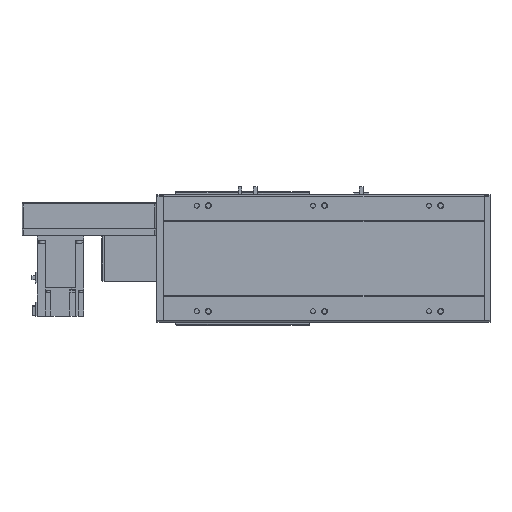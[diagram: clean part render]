
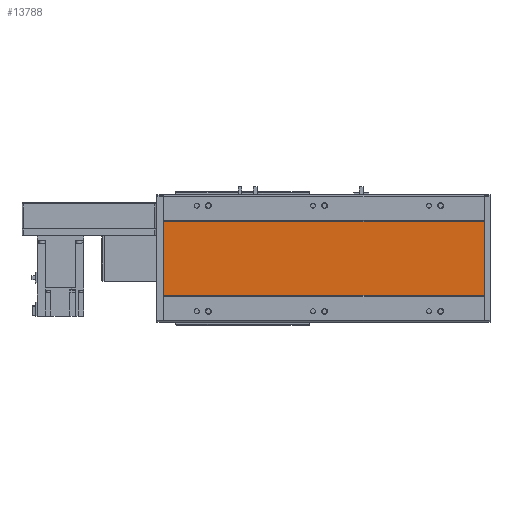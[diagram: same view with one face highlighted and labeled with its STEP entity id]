
A CAD part, front view. The second image highlights one B-rep face of the part: STEP entity #13788.
In plain terms, the highlighted planar face has unit normal (0, -1, 0).
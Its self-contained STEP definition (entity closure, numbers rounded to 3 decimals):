
#3067=ORIENTED_EDGE('',*,*,#6180,.T.);
#3068=ORIENTED_EDGE('',*,*,#6181,.F.);
#3069=ORIENTED_EDGE('',*,*,#6182,.F.);
#3070=ORIENTED_EDGE('',*,*,#6178,.T.);
#6178=EDGE_CURVE('',#7857,#7856,#9098,.T.);
#6180=EDGE_CURVE('',#7856,#7858,#9099,.T.);
#6181=EDGE_CURVE('',#7859,#7858,#9100,.T.);
#6182=EDGE_CURVE('',#7857,#7859,#9101,.T.);
#7856=VERTEX_POINT('',#22649);
#7857=VERTEX_POINT('',#22651);
#7858=VERTEX_POINT('',#22655);
#7859=VERTEX_POINT('',#22657);
#9098=LINE('',#22650,#10433);
#9099=LINE('',#22654,#10434);
#9100=LINE('',#22656,#10435);
#9101=LINE('',#22658,#10436);
#10433=VECTOR('',#18173,1000.);
#10434=VECTOR('',#18178,1000.);
#10435=VECTOR('',#18179,1000.);
#10436=VECTOR('',#18180,1000.);
#11374=EDGE_LOOP('',(#3067,#3068,#3069,#3070));
#12373=FACE_BOUND('',#11374,.T.);
#13147=PLANE('',#15034);
#13788=ADVANCED_FACE('',(#12373),#13147,.F.);
#15034=AXIS2_PLACEMENT_3D('',#22653,#18176,#18177);
#18173=DIRECTION('',(-1.,0.,0.));
#18176=DIRECTION('',(0.,1.,0.));
#18177=DIRECTION('',(0.,0.,1.));
#18178=DIRECTION('',(0.,0.,-1.));
#18179=DIRECTION('',(-1.,0.,0.));
#18180=DIRECTION('',(0.,0.,-1.));
#22649=CARTESIAN_POINT('',(12.,1.,64.294));
#22650=CARTESIAN_POINT('',(564.,1.,64.294));
#22651=CARTESIAN_POINT('',(564.,1.,64.294));
#22653=CARTESIAN_POINT('',(564.,1.,64.294));
#22654=CARTESIAN_POINT('',(12.,1.,64.294));
#22655=CARTESIAN_POINT('',(12.,1.,-64.294));
#22656=CARTESIAN_POINT('',(564.,1.,-64.294));
#22657=CARTESIAN_POINT('',(564.,1.,-64.294));
#22658=CARTESIAN_POINT('',(564.,1.,64.294));
